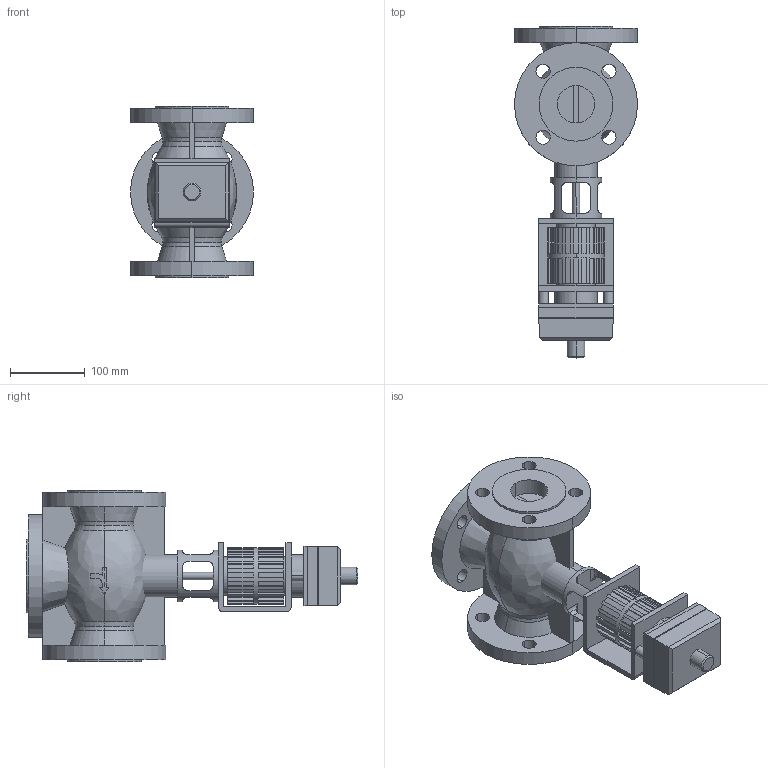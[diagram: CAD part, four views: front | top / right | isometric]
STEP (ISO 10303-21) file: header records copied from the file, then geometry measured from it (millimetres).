
FILE_DESCRIPTION((''),'2;1');
FILE_NAME('000265.stp','2006-10-04T15:58:01',(''),(''),'Mechanical Desktop 2006','Mechanical Desktop 2006',', , ');
FILE_SCHEMA(('AUTOMOTIVE_DESIGN { 1 2 10303 214 0 1 1 1 }'));
Length unit declared in the file: millimetre
Products named in the file (1): Product
Bounding box: 165 x 445 x 230 mm (x, y, z)
Volume: 4347125.6 mm3; surface area: 543913.6 mm2
Topology: 26 solids, 26 shells, 569 faces, 1503 edges, 986 vertices
Faces by surface type: plane 266, cylinder 186, bspline 110, cone 7
Entity records: 18786 total; most frequent: CARTESIAN_POINT 4661, ORIENTED_EDGE 3006, DIRECTION 2803, EDGE_CURVE 1503, VERTEX_POINT 986, VECTOR 935, LINE 935, AXIS2_PLACEMENT_3D 934
